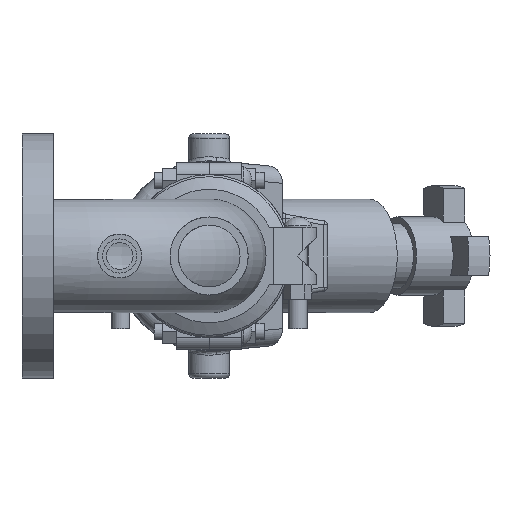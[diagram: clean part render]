
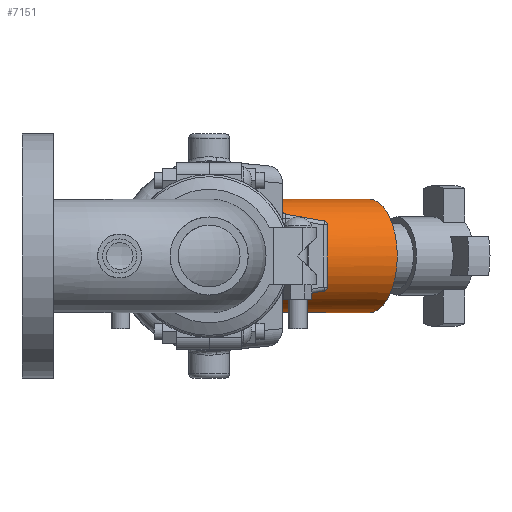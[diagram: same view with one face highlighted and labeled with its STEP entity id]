
A CAD part, front view. The second image highlights one B-rep face of the part: STEP entity #7151.
In plain terms, the highlighted cylindrical face has radius 44.45 mm (diameter 88.9 mm), a full revolution.
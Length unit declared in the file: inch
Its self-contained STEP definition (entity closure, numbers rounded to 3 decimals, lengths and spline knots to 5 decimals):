
#242=ELLIPSE('',#7887,3.5,1.75);
#243=ELLIPSE('',#7888,2.02073,1.75);
#244=ELLIPSE('',#7891,2.02073,1.75);
#245=ELLIPSE('',#7892,3.5,1.75);
#443=LINE('',#12397,#908);
#908=VECTOR('',#9241,1.75);
#1305=CYLINDRICAL_SURFACE('',#7923,1.75);
#1623=FACE_OUTER_BOUND('',#2041,.T.);
#2041=EDGE_LOOP('',(#5162,#5163,#5164,#5165,#5166,#5167,#5168,#5169));
#2470=CIRCLE('',#7847,1.75);
#2471=CIRCLE('',#7848,1.75);
#2896=VERTEX_POINT('',#12217);
#2897=VERTEX_POINT('',#12218);
#2937=VERTEX_POINT('',#12331);
#2938=VERTEX_POINT('',#12333);
#2939=VERTEX_POINT('',#12335);
#2942=VERTEX_POINT('',#12342);
#3677=EDGE_CURVE('',#2896,#2897,#2470,.T.);
#3678=EDGE_CURVE('',#2897,#2896,#2471,.T.);
#3734=EDGE_CURVE('',#2937,#2938,#242,.T.);
#3735=EDGE_CURVE('',#2938,#2939,#243,.T.);
#3739=EDGE_CURVE('',#2939,#2942,#244,.T.);
#3740=EDGE_CURVE('',#2942,#2937,#245,.T.);
#3764=EDGE_CURVE('',#2937,#2897,#443,.T.);
#5162=ORIENTED_EDGE('',*,*,#3735,.F.);
#5163=ORIENTED_EDGE('',*,*,#3734,.F.);
#5164=ORIENTED_EDGE('',*,*,#3764,.T.);
#5165=ORIENTED_EDGE('',*,*,#3678,.T.);
#5166=ORIENTED_EDGE('',*,*,#3677,.T.);
#5167=ORIENTED_EDGE('',*,*,#3764,.F.);
#5168=ORIENTED_EDGE('',*,*,#3740,.F.);
#5169=ORIENTED_EDGE('',*,*,#3739,.F.);
#7151=ADVANCED_FACE('',(#1623),#1305,.T.);
#7847=AXIS2_PLACEMENT_3D('',#12219,#9047,#9048);
#7848=AXIS2_PLACEMENT_3D('',#12220,#9049,#9050);
#7887=AXIS2_PLACEMENT_3D('',#12334,#9161,#9162);
#7888=AXIS2_PLACEMENT_3D('',#12336,#9163,#9164);
#7891=AXIS2_PLACEMENT_3D('',#12343,#9170,#9171);
#7892=AXIS2_PLACEMENT_3D('',#12344,#9172,#9173);
#7923=AXIS2_PLACEMENT_3D('',#12396,#9239,#9240);
#9047=DIRECTION('center_axis',(-0.5,0.866,0.));
#9048=DIRECTION('ref_axis',(-0.866,-0.5,0.));
#9049=DIRECTION('center_axis',(-0.5,0.866,0.));
#9050=DIRECTION('ref_axis',(-0.866,-0.5,0.));
#9161=DIRECTION('center_axis',(0.5,0.866,0.));
#9162=DIRECTION('ref_axis',(-0.866,0.5,0.));
#9163=DIRECTION('center_axis',(-0.866,0.5,0.));
#9164=DIRECTION('ref_axis',(-0.5,-0.866,0.));
#9170=DIRECTION('center_axis',(-0.866,0.5,0.));
#9171=DIRECTION('ref_axis',(-0.5,-0.866,0.));
#9172=DIRECTION('center_axis',(0.5,0.866,0.));
#9173=DIRECTION('ref_axis',(-0.866,0.5,0.));
#9239=DIRECTION('center_axis',(-0.5,0.866,0.));
#9240=DIRECTION('ref_axis',(-0.866,-0.5,0.));
#9241=DIRECTION('',(0.5,-0.866,0.));
#12217=CARTESIAN_POINT('',(-1.04054,-5.78112,0.));
#12218=CARTESIAN_POINT('',(1.99054,-4.03112,0.));
#12219=CARTESIAN_POINT('Origin',(0.475,-4.90612,0.));
#12220=CARTESIAN_POINT('Origin',(0.475,-4.90612,0.));
#12331=CARTESIAN_POINT('',(0.67354,-1.75,0.));
#12333=CARTESIAN_POINT('',(-2.35755,0.,-1.75));
#12334=CARTESIAN_POINT('Origin',(-2.35755,0.,0.));
#12335=CARTESIAN_POINT('',(-3.36791,-1.75,0.));
#12336=CARTESIAN_POINT('Origin',(-2.35755,0.,0.));
#12342=CARTESIAN_POINT('',(-2.35755,0.,1.75));
#12343=CARTESIAN_POINT('Origin',(-2.35755,0.,0.));
#12344=CARTESIAN_POINT('Origin',(-2.35755,0.,0.));
#12396=CARTESIAN_POINT('Origin',(0.475,-4.90612,0.));
#12397=CARTESIAN_POINT('',(1.99054,-4.03112,0.));
